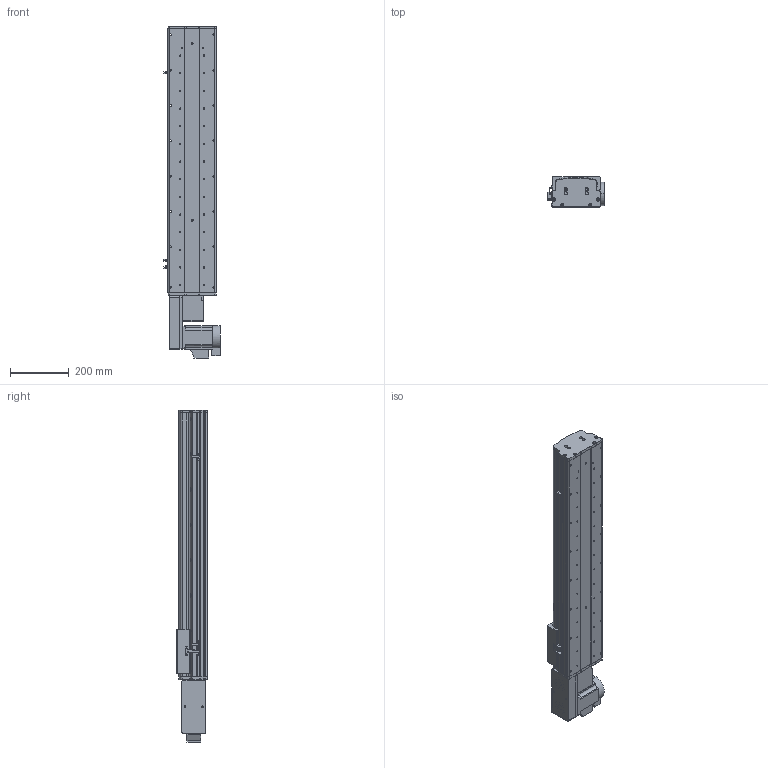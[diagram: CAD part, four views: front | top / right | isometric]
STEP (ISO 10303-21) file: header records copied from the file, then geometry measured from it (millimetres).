
FILE_DESCRIPTION (( 'STEP AP214' ), '1' );
FILE_NAME ('KSD165B-S650-MLB-CM .STEP', '2017-10-16T06:07:05', ( '微软用户' ), ( '微软中国' ), 'SwSTEP 2.0', 'SolidWorks 2014', '' );
FILE_SCHEMA (( 'AUTOMOTIVE_DESIGN' ));
Length unit declared in the file: millimetre
Products named in the file (17): U倰嫖萇假蚾璃; U倰嫖萇EEㄜSX672; 覜茼え68遵圉猾敕; KSD165模组-同步带-防撞垫2; KSD165模组同步带-防撞垫1; KSD165耀郪-ヶ傷啣1-肮祭湍; KSD165模组-后端板1-同步带; KSD165模组-同步带滑动座-最新版; KSD165B-S650-MLB-CM  ; HTPA26S5M250-A-H8 750W萇儂蚚; HTPA26S5M250-A-H8 400W萇儂蚚 ; 130宽模组马达安装板连板左右折同步带; 130宽模组保护罩上下左右折-同步带; 165宽马达安装板同步带左-改; KSD165模组-同步带防尘盖1-650行程-最新版; KSD165模组同步带底板-650行程-最新; 拸秶雄ん750W侜督萇儂
Assembly tree (20 placements, depth 2):
  KSD165B-S650-MLB-CM  
    KSD165模组-同步带滑动座-最新版
    KSD165模组-后端板1-同步带
    KSD165耀郪-ヶ傷啣1-肮祭湍
    KSD165模组同步带-防撞垫1
    KSD165模组-同步带-防撞垫2
    覜茼え68遵圉猾敕
    U倰嫖萇EEㄜSX672  x3
    U倰嫖萇假蚾璃  x3
    拸秶雄ん750W侜督萇儂
    KSD165模组同步带底板-650行程-最新
    KSD165模组-同步带防尘盖1-650行程-最新版
    165宽马达安装板同步带左-改
    130宽模组保护罩上下左右折-同步带
    130宽模组马达安装板连板左右折同步带
    HTPA26S5M250-A-H8 400W萇儂蚚 
    HTPA26S5M250-A-H8 750W萇儂蚚
Bounding box: 191.2 x 104 x 1128 mm (x, y, z)
Volume: 6337035.4 mm3; surface area: 1469859.9 mm2
Topology: 21 solids, 22 shells, 1925 faces, 5424 edges, 3540 vertices
Faces by surface type: cylinder 1229, plane 584, cone 112
Entity records: 62104 total; most frequent: CARTESIAN_POINT 12726, DIRECTION 10240, ORIENTED_EDGE 9508, EDGE_CURVE 4754, AXIS2_PLACEMENT_3D 4012, VERTEX_POINT 3132, CIRCLE 2284, VECTOR 2216
